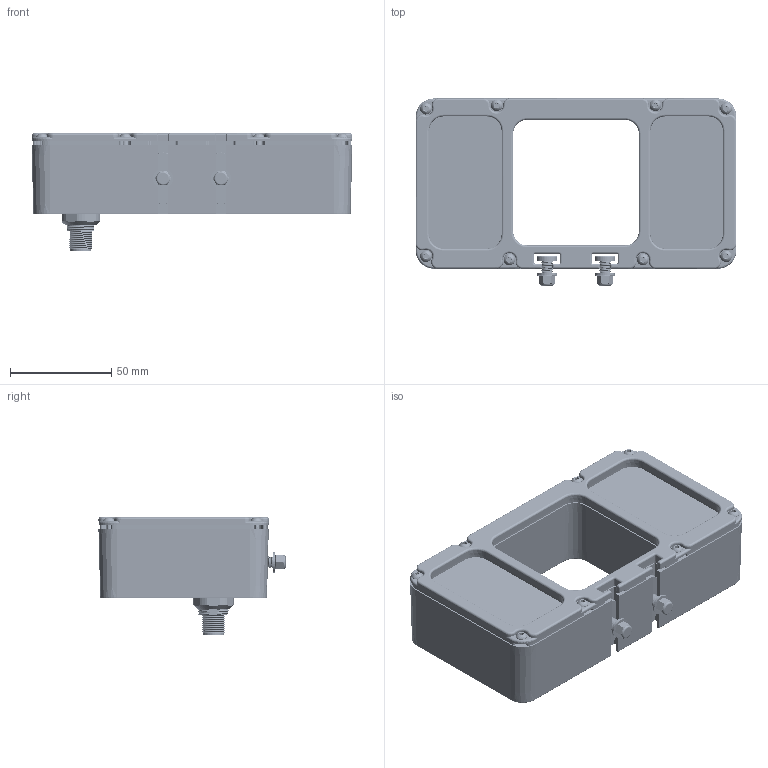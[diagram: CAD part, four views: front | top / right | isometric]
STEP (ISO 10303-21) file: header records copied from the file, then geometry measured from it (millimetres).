
FILE_DESCRIPTION (( 'STEP AP214' ), '1' );
FILE_NAME ('JWL150.STEP', '2022-08-23T14:49:00', ( '' ), ( '' ), 'SwSTEP 2.0', 'SolidWorks 2022', '' );
FILE_SCHEMA (( 'AUTOMOTIVE_DESIGN' ));
Length unit declared in the file: millimetre
Products named in the file (22): 750-0172-L8A0A_750-0172-L8A0A; PLT0255 & GSKT0026_PLT0255 & GSKT0026; LPT0563_LPT0563; SC0161_SC0161; LENS0059_LENS0059; PLT0255_PLT0255; 750-0171-XXXX_750-0171-XXXX; 750-0172-L8AOA_750-0172-L8AOA; HSG206_REV 3_HSG206_REV 3; JWL150; WA0018_WA0018; POL0095_POL0095; M12_Male - Long; M12 Nut_M12 Nut; 750-0170-JCAPA_750-0170-JCAPA; MRO1035_1x2; LENS0060_LENS0060; SC0078_(M2 x 4MM) (SC0078)  95836A105_METRIC PAN HEAD PHILLIPS MACHINE SCREW; GSKT0026_rev4; SC0162_SC0162; NU0011_NU0011
Assembly tree (49 placements, depth 3):
  JWL150
    HSG206_REV 3_HSG206_REV 3
    750-0170-JCAPA_750-0170-JCAPA
    MRO1035_1x2  x2
    750-0172-L8A0A_750-0172-L8A0A
      750-0172-L8AOA_750-0172-L8AOA
      M12_Male - Long
    750-0171-XXXX_750-0171-XXXX  x2
      750-0171-XXXX_750-0171-XXXX
      LENS0060_LENS0060
    NU0011_NU0011  x2
    LPT0563_LPT0563  x4
    LENS0059_LENS0059  x2
    POL0095_POL0095  x2
    PLT0255 & GSKT0026_PLT0255 & GSKT0026
      PLT0255_PLT0255
      GSKT0026_rev4
    SC0162_SC0162  x8
    M12 Nut_M12 Nut
    SC0161_SC0161  x2
    SC0078_(M2 x 4MM) (SC0078)  95836A105_METRIC PAN HEAD PHILLIPS MACHINE SCREW  x5
    WA0018_WA0018  x2
Bounding box: 158.8 x 92.6 x 58.15 mm (x, y, z)
Volume: 239891.1 mm3; surface area: 195549 mm2
Topology: 88 solids, 89 shells, 7633 faces, 20479 edges, 13092 vertices
Faces by surface type: plane 2301, cylinder 2238, bspline 1749, cone 1111, torus 206, sphere 28
Entity records: 144179 total; most frequent: CARTESIAN_POINT 64020, ORIENTED_EDGE 13610, DIRECTION 11320, EDGE_CURVE 6805, VERTEX_POINT 4398, AXIS2_PLACEMENT_3D 4007, VECTOR 3306, LINE 3306
